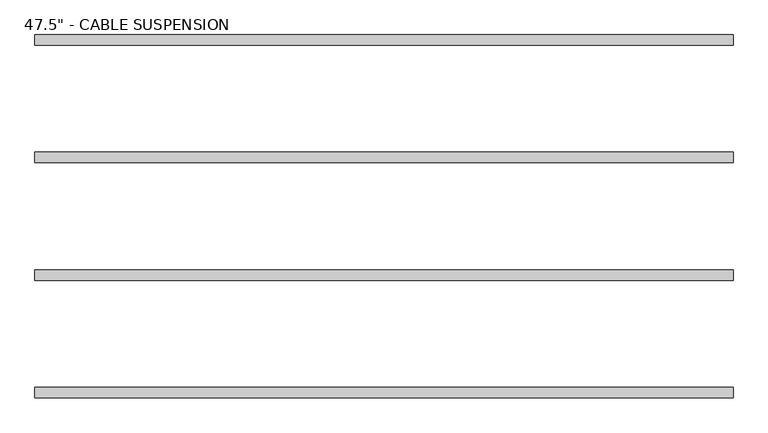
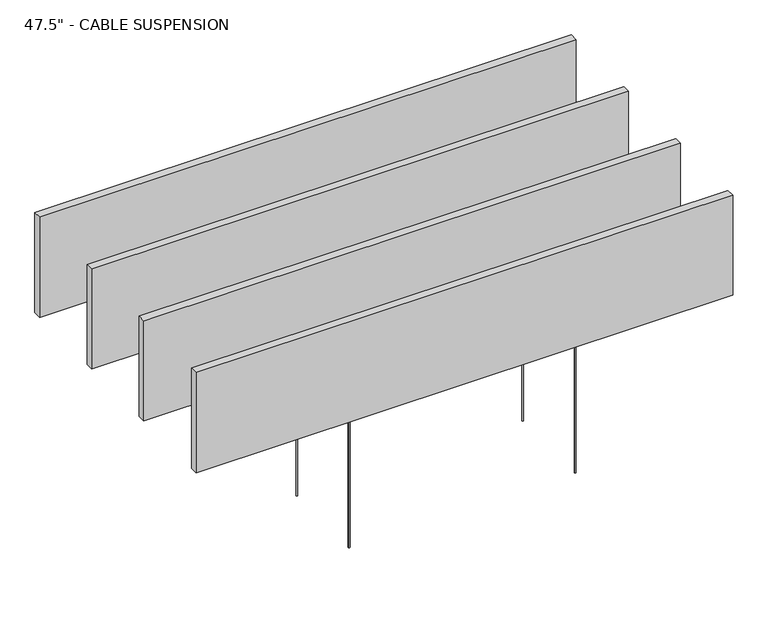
"""IFC4 building model written with IfcOpenShell, lengths in millimetres: proxy geometry."""

from ifc_helpers import new_model, si_unit, point, frame, frame_2d, origin, origin_with_axes, place, context, project, spatial, polyline, circle_curve, trimmed, segment, composite_curve, outline, extrude, source, transform, mapped, element, save


def proxy_46c5f0b4(model_context):
    return source(origin(), model_context, "Body", "SweptSolid", [
        extrude(outline(composite_curve([segment(trimmed(circle_curve(frame_2d((-254.0, 609.6)), 1.5400297), [point((-255.5400297, 609.6))], [point((-252.4599703, 609.6))], False, "CARTESIAN"), True, "CONTINUOUS"), segment(trimmed(circle_curve(frame_2d((-254.0, 609.6)), 1.5400297), [point((-252.4599703, 609.6))], [point((-255.5400297, 609.6))], False, "CARTESIAN"), True, "CONTINUOUS")], self_intersect=False)), origin_with_axes(), (0.0, 0.0, 1.0), 313.53125),
        extrude(outline(composite_curve([segment(trimmed(circle_curve(frame_2d((254.0, 609.6)), 1.5400297), [point((252.4599703, 609.6))], [point((255.5400297, 609.6))], False, "CARTESIAN"), True, "CONTINUOUS"), segment(trimmed(circle_curve(frame_2d((254.0, 609.6)), 1.5400297), [point((255.5400297, 609.6))], [point((252.4599703, 609.6))], False, "CARTESIAN"), True, "CONTINUOUS")], self_intersect=False)), origin_with_axes(), (0.0, 0.0, 1.0), 313.53125),
        extrude(outline(polyline([(-603.25, 600.59951), (-603.25, 618.60049), (603.25, 618.60049), (603.25, 600.59951), (-603.25, 600.59951)])), frame((0.0, 0.0, 304.8), z_axis=(0.0, 0.0, 1.0), x_axis=(1.0, 0.0, 0.0)), (0.0, 0.0, 1.0), 238.125),
        extrude(outline(composite_curve([segment(trimmed(circle_curve(frame_2d((-254.0, 406.4)), 1.5400297), [point((-255.5400297, 406.4))], [point((-252.4599703, 406.4))], False, "CARTESIAN"), True, "CONTINUOUS"), segment(trimmed(circle_curve(frame_2d((-254.0, 406.4)), 1.5400297), [point((-252.4599703, 406.4))], [point((-255.5400297, 406.4))], False, "CARTESIAN"), True, "CONTINUOUS")], self_intersect=False)), origin_with_axes(), (0.0, 0.0, 1.0), 313.53125),
        extrude(outline(composite_curve([segment(trimmed(circle_curve(frame_2d((254.0, 406.4)), 1.5400297), [point((252.4599703, 406.4))], [point((255.5400297, 406.4))], False, "CARTESIAN"), True, "CONTINUOUS"), segment(trimmed(circle_curve(frame_2d((254.0, 406.4)), 1.5400297), [point((255.5400297, 406.4))], [point((252.4599703, 406.4))], False, "CARTESIAN"), True, "CONTINUOUS")], self_intersect=False)), origin_with_axes(), (0.0, 0.0, 1.0), 313.53125),
        extrude(outline(polyline([(-603.25, 397.39951), (-603.25, 415.40049), (603.25, 415.40049), (603.25, 397.39951), (-603.25, 397.39951)])), frame((0.0, 0.0, 304.8), z_axis=(0.0, 0.0, 1.0), x_axis=(1.0, 0.0, 0.0)), (0.0, 0.0, 1.0), 238.125),
        extrude(outline(composite_curve([segment(trimmed(circle_curve(frame_2d((-254.0, 203.2)), 1.5400297), [point((-255.5400297, 203.2))], [point((-252.4599703, 203.2))], False, "CARTESIAN"), True, "CONTINUOUS"), segment(trimmed(circle_curve(frame_2d((-254.0, 203.2)), 1.5400297), [point((-252.4599703, 203.2))], [point((-255.5400297, 203.2))], False, "CARTESIAN"), True, "CONTINUOUS")], self_intersect=False)), origin_with_axes(), (0.0, 0.0, 1.0), 313.53125),
        extrude(outline(composite_curve([segment(trimmed(circle_curve(frame_2d((254.0, 203.2)), 1.5400297), [point((252.4599703, 203.2))], [point((255.5400297, 203.2))], False, "CARTESIAN"), True, "CONTINUOUS"), segment(trimmed(circle_curve(frame_2d((254.0, 203.2)), 1.5400297), [point((255.5400297, 203.2))], [point((252.4599703, 203.2))], False, "CARTESIAN"), True, "CONTINUOUS")], self_intersect=False)), origin_with_axes(), (0.0, 0.0, 1.0), 313.53125),
        extrude(outline(polyline([(-603.25, 194.19951), (-603.25, 212.20049), (603.25, 212.20049), (603.25, 194.19951), (-603.25, 194.19951)])), frame((0.0, 0.0, 304.8), z_axis=(0.0, 0.0, 1.0), x_axis=(1.0, 0.0, 0.0)), (0.0, 0.0, 1.0), 238.125),
        extrude(outline(composite_curve([segment(trimmed(circle_curve(frame_2d((-254.0, 0.0)), 1.5400297), [point((-255.5400297, 0.0))], [point((-252.4599703, 0.0))], False, "CARTESIAN"), True, "CONTINUOUS"), segment(trimmed(circle_curve(frame_2d((-254.0, 0.0)), 1.5400297), [point((-252.4599703, 0.0))], [point((-255.5400297, 0.0))], False, "CARTESIAN"), True, "CONTINUOUS")], self_intersect=False)), origin_with_axes(), (0.0, 0.0, 1.0), 313.53125),
        extrude(outline(composite_curve([segment(trimmed(circle_curve(frame_2d((254.0, 0.0)), 1.5400297), [point((252.4599703, 0.0))], [point((255.5400297, 0.0))], False, "CARTESIAN"), True, "CONTINUOUS"), segment(trimmed(circle_curve(frame_2d((254.0, 0.0)), 1.5400297), [point((255.5400297, 0.0))], [point((252.4599703, 0.0))], False, "CARTESIAN"), True, "CONTINUOUS")], self_intersect=False)), origin_with_axes(), (0.0, 0.0, 1.0), 313.53125),
        extrude(outline(polyline([(-603.25, -9.00049), (-603.25, 9.00049), (603.25, 9.00049), (603.25, -9.00049), (-603.25, -9.00049)])), frame((0.0, 0.0, 304.8), z_axis=(0.0, 0.0, 1.0), x_axis=(1.0, 0.0, 0.0)), (0.0, 0.0, 1.0), 238.125),
    ])


if __name__ == "__main__":
    model = new_model("IFC4")
    model_context = context("Model", 3, world=origin())
    ifc_project = project(units=[si_unit("LENGTHUNIT", "METRE", prefix="MILLI")], contexts=[model_context])
    site = spatial("IfcSite", under=ifc_project)
    building = spatial("IfcBuilding", under=site)
    placement = place(None, origin())
    proxy_shape = proxy_46c5f0b4(model_context)
    element("IfcBuildingElementProxy", 1, Name="SE_TIMBER BAFFLE_MULTI-SYSTEM_FB_TURF : 47.5\" - CABLE SUSPENSION", ObjectType="SE_TIMBER BAFFLE_MULTI-SYSTEM_FB_TURF : 47.5\" - CABLE SUSPENSION", at=placement, inside=building, context=model_context, shape_type="MappedRepresentation", body=[
        mapped(proxy_shape, transform((0.0, 0.0, 0.0), x_axis=(1.0, 0.0, 0.0), y_axis=(0.0, 1.0, 0.0), z_axis=(0.0, 0.0, 1.0))),
    ])
    save(model, "model.ifc")
